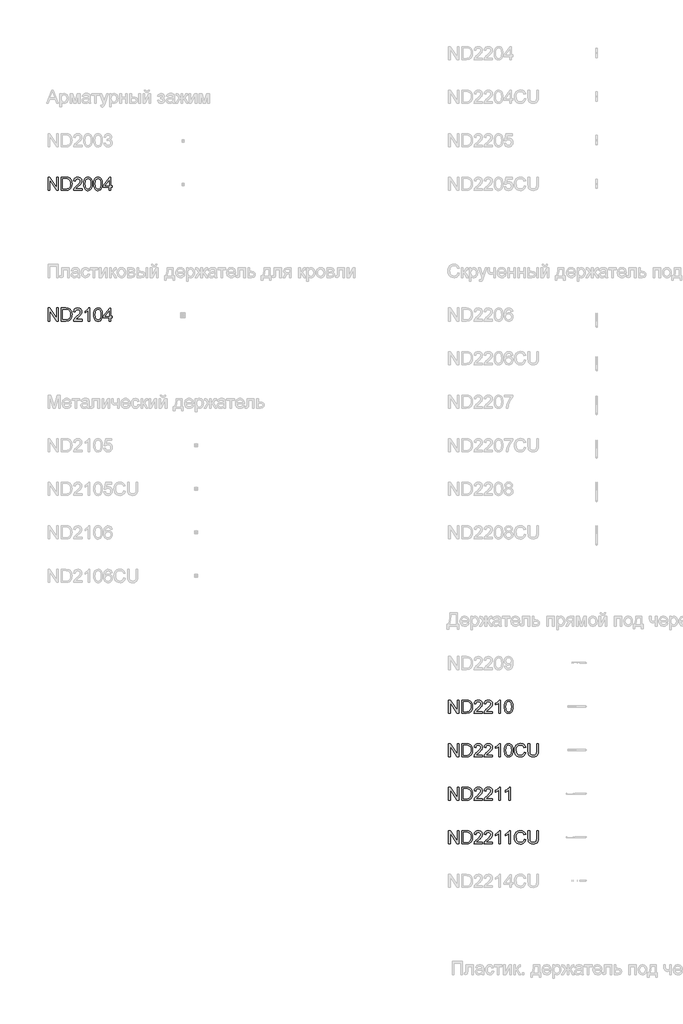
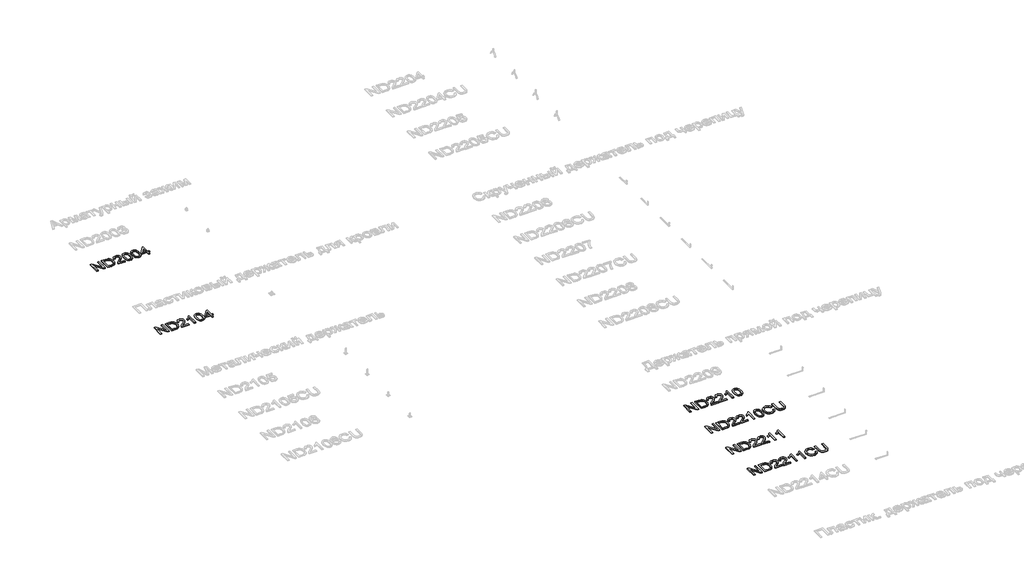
# One storey, part 88 of 124: 6 proxies.
"""IFC4 building model written with IfcOpenShell, lengths in millimetres."""

from ifc_helpers import new_model, si_unit, origin, origin_with_axes, place, context, project, spatial, polyline, outline, extrude, element, save

model = new_model("IFC4")

# Units and contexts
model_context = context("Model", 3, world=origin())
ifc_project = project(units=[si_unit("LENGTHUNIT", "METRE", prefix="MILLI")], contexts=[model_context])

# Site, building, storey
site = spatial("IfcSite", under=ifc_project)
building = spatial("IfcBuilding", under=site)
storey = spatial("IfcBuildingStorey", under=building, Name="Этаж 01", Elevation=0.0)

# Proxies
placement = place(None, origin())
element("IfcBuildingElementProxy", 1, Name="300", ObjectType="300", at=placement, inside=storey, context=model_context, shape_type="SweptSolid", body=[
    extrude(outline(polyline([(23340.1671275, -28519.5141033), (23340.1671275, -28218.1451728), (23380.4869942, -28218.1451728), (23537.9404881, -28456.9005877), (23537.9404881, -28218.1451728), (23575.6116044, -28218.1451728), (23575.6116044, -28519.5141033), (23535.2917378, -28519.5141033), (23377.8382438, -28280.685112), (23377.8382438, -28519.5141033), (23340.1671275, -28519.5141033)])), origin_with_axes(), (0.0, 0.0, 1.0), 20.0),
    extrude(outline(polyline([(23641.536058, -28519.5141033), (23641.536058, -28218.1451728), (23745.4995098, -28218.1451728), (23799.2838575, -28222.4861804), (23823.3065518, -28230.8554957), (23843.5768497, -28244.0440653), (23864.4173648, -28266.9999018), (23879.2614033, -28295.5475446), (23888.1457534, -28329.1351708), (23891.1072035, -28367.2109573), (23889.1022466, -28399.5569817), (23883.087376, -28428.0218511), (23873.9271143, -28452.2560775), (23862.4859843, -28471.9101731), (23849.3158089, -28487.4255962), (23834.968411, -28499.2438053), (23818.4964947, -28508.0085939), (23798.9527637, -28514.3637553), (23750.5027049, -28519.5141033), (23641.536058, -28519.5141033)]), holes=[polyline([(23679.2071743, -28481.842987), (23745.8673918, -28481.842987), (23773.4401473, -28480.4818236), (23794.3542388, -28476.3983334), (23810.1363764, -28469.8316398), (23822.3132704, -28461.020866), (23835.4006724, -28444.7144966), (23845.2323187, -28423.6072671), (23851.3851451, -28397.6072071), (23853.4360872, -28366.6223461), (23849.4169764, -28325.5667154), (23837.359644, -28295.253239), (23819.5449584, -28274.4311181), (23798.2537879, -28261.8495538), (23776.5855384, -28257.3246053), (23744.8373222, -28255.8162891), (23679.2071743, -28255.8162891), (23679.2071743, -28481.842987)])]), origin_with_axes(), (0.0, 0.0, 1.0), 20.0),
    extrude(outline(polyline([(24121.8427909, -28481.842987), (24121.8427909, -28519.5141033), (23924.0694303, -28519.5141033), (23928.1161322, -28493.5416344), (23937.4051526, -28473.2437453), (23950.9983923, -28453.5528615), (23970.661685, -28432.9422727), (23998.1608641, -28409.8852687), (24038.8118246, -28373.7776509), (24063.2024008, -28347.1246003), (24075.397689, -28325.493139), (24079.462785, -28304.4502889), (24075.6276152, -28285.5871396), (24064.1221058, -28269.9061695), (24046.4361789, -28259.3387592), (24024.0597566, -28255.8162891), (24000.5612941, -28259.2559858), (23982.3051501, -28269.5750757), (23970.5237292, -28285.9642186), (23966.4494361, -28307.614074), (23928.7783198, -28302.9051845), (23937.9109903, -28266.4664729), (23946.4573489, -28251.9305355), (23957.6570564, -28239.8502105), (23971.2525954, -28230.3542565), (23986.9864485, -28223.5714322), (24024.869097, -28218.1451728), (24045.0589207, -28219.653489), (24063.0276569, -28224.1784375), (24078.7753056, -28231.7200184), (24092.3018667, -28242.2782317), (24103.1658818, -28255.0713281), (24110.9258927, -28269.3175583), (24115.5818992, -28285.0169225), (24117.1339013, -28302.1694205), (24115.4600383, -28320.1864412), (24110.438449, -28337.8907622), (24101.5265077, -28355.8985859), (24088.1815883, -28374.8261146), (24066.9088119, -28397.4232661), (24034.2132996, -28426.4399585), (23990.8768006, -28462.676335), (23973.8806524, -28481.842987), (24121.8427909, -28481.842987)])), origin_with_axes(), (0.0, 0.0, 1.0), 20.0),
    extrude(outline(polyline([(24352.5783783, -28481.842987), (24352.5783783, -28519.5141033), (24154.8050176, -28519.5141033), (24158.8517196, -28493.5416344), (24168.14074, -28473.2437453), (24181.7339797, -28453.5528615), (24201.3972723, -28432.9422727), (24228.8964515, -28409.8852687), (24269.5474119, -28373.7776509), (24293.9379882, -28347.1246003), (24306.1332764, -28325.493139), (24310.1983724, -28304.4502889), (24306.3632026, -28285.5871396), (24294.8576932, -28269.9061695), (24277.1717663, -28259.3387592), (24254.7953439, -28255.8162891), (24231.2968815, -28259.2559858), (24213.0407375, -28269.5750757), (24201.2593166, -28285.9642186), (24197.1850235, -28307.614074), (24159.5139072, -28302.9051845), (24168.6465777, -28266.4664729), (24177.1929363, -28251.9305355), (24188.3926438, -28239.8502105), (24201.9881828, -28230.3542565), (24217.7220359, -28223.5714322), (24255.6046843, -28218.1451728), (24275.7945081, -28219.653489), (24293.7632443, -28224.1784375), (24309.5108929, -28231.7200184), (24323.037454, -28242.2782317), (24333.9014692, -28255.0713281), (24341.66148, -28269.3175583), (24346.3174865, -28285.0169225), (24347.8694887, -28302.1694205), (24346.1956256, -28320.1864412), (24341.1740364, -28337.8907622), (24332.2620951, -28355.8985859), (24318.9171757, -28374.8261146), (24297.6443993, -28397.4232661), (24264.948887, -28426.4399585), (24221.612388, -28462.676335), (24204.6162398, -28481.842987), (24352.5783783, -28481.842987)])), origin_with_axes(), (0.0, 0.0, 1.0), 20.0),
    extrude(outline(polyline([(24531.5161807, -28519.5141033), (24493.8450644, -28519.5141033), (24493.8450644, -28284.6582375), (24458.1605109, -28310.0788834), (24418.5028318, -28329.0983826), (24418.5028318, -28293.4874054), (24448.0897413, -28277.3925681), (24473.7219193, -28258.2443103), (24493.9278379, -28237.8820419), (24507.235969, -28218.1451728), (24531.5161807, -28218.1451728), (24531.5161807, -28519.5141033)])), origin_with_axes(), (0.0, 0.0, 1.0), 20.0),
    extrude(outline(polyline([(24620.9850819, -28371.2576592), (24623.7533939, -28323.0191326), (24632.05833, -28284.5478729), (24645.8171166, -28255.2552691), (24664.9469804, -28234.5527098), (24689.585877, -28222.2470571), (24719.8717622, -28218.1451728), (24743.0851161, -28220.573194), (24763.8704489, -28227.8572575), (24781.2528731, -28239.7122548), (24794.2575017, -28255.8530773), (24804.0799509, -28276.1417694), (24811.9158374, -28300.4403751), (24817.0477913, -28331.2964775), (24818.7584425, -28371.2576592), (24816.0177217, -28419.2202743), (24807.7955591, -28457.5995635), (24794.1195459, -28486.9197585), (24775.0172733, -28507.7050912), (24750.3231944, -28520.0935174), (24719.8717622, -28524.2229928), (24699.1232177, -28522.4295681), (24680.729118, -28517.0492939), (24664.689463, -28508.0821703), (24651.0042527, -28495.5281972), (24637.8708655, -28472.8344766), (24628.4898746, -28444.5581467), (24622.8612801, -28410.6992076), (24620.9850819, -28371.2576592)]), holes=[polyline([(24658.6561982, -28371.1840828), (24663.0707822, -28430.4406752), (24668.5890121, -28450.7086739), (24676.314534, -28464.7364742), (24696.033009, -28481.0980259), (24719.8717622, -28486.5518765), (24743.7105155, -28481.0796318), (24763.4289905, -28464.6628978), (24771.1545124, -28450.6121048), (24776.6727423, -28430.3487047), (24781.0873262, -28371.1840828), (24776.8198951, -28313.2610627), (24771.4856062, -28293.0597426), (24764.0176017, -28278.6985492), (24744.3359149, -28261.5368541), (24719.4303038, -28255.8162891), (24695.849068, -28260.8562725), (24676.9031452, -28275.9762225), (24668.9201059, -28291.6112072), (24663.217935, -28312.6908456), (24658.6561982, -28371.1840828)])]), origin_with_axes(), (0.0, 0.0, 1.0), 20.0),
])
element("IfcBuildingElementProxy", 2, Name="300", ObjectType="300", at=placement, inside=storey, context=model_context, shape_type="SweptSolid", body=[
    extrude(outline(polyline([(23340.1671275, -29519.5141033), (23340.1671275, -29218.1451728), (23380.4869942, -29218.1451728), (23537.9404881, -29456.9005877), (23537.9404881, -29218.1451728), (23575.6116044, -29218.1451728), (23575.6116044, -29519.5141033), (23535.2917378, -29519.5141033), (23377.8382438, -29280.685112), (23377.8382438, -29519.5141033), (23340.1671275, -29519.5141033)])), origin_with_axes(), (0.0, 0.0, 1.0), 20.0),
    extrude(outline(polyline([(23641.536058, -29519.5141033), (23641.536058, -29218.1451728), (23745.4995098, -29218.1451728), (23799.2838575, -29222.4861804), (23823.3065518, -29230.8554957), (23843.5768497, -29244.0440653), (23864.4173648, -29266.9999018), (23879.2614033, -29295.5475446), (23888.1457534, -29329.1351708), (23891.1072035, -29367.2109573), (23889.1022466, -29399.5569817), (23883.087376, -29428.0218511), (23873.9271143, -29452.2560775), (23862.4859843, -29471.9101731), (23849.3158089, -29487.4255962), (23834.968411, -29499.2438053), (23818.4964947, -29508.0085939), (23798.9527637, -29514.3637553), (23750.5027049, -29519.5141033), (23641.536058, -29519.5141033)]), holes=[polyline([(23679.2071743, -29481.842987), (23745.8673918, -29481.842987), (23773.4401473, -29480.4818236), (23794.3542388, -29476.3983334), (23810.1363764, -29469.8316398), (23822.3132704, -29461.020866), (23835.4006724, -29444.7144966), (23845.2323187, -29423.6072671), (23851.3851451, -29397.6072071), (23853.4360872, -29366.6223461), (23849.4169764, -29325.5667154), (23837.359644, -29295.253239), (23819.5449584, -29274.4311181), (23798.2537879, -29261.8495538), (23776.5855384, -29257.3246053), (23744.8373222, -29255.8162891), (23679.2071743, -29255.8162891), (23679.2071743, -29481.842987)])]), origin_with_axes(), (0.0, 0.0, 1.0), 20.0),
    extrude(outline(polyline([(24121.8427909, -29481.842987), (24121.8427909, -29519.5141033), (23924.0694303, -29519.5141033), (23928.1161322, -29493.5416344), (23937.4051526, -29473.2437453), (23950.9983923, -29453.5528615), (23970.661685, -29432.9422727), (23998.1608641, -29409.8852687), (24038.8118246, -29373.7776509), (24063.2024008, -29347.1246003), (24075.397689, -29325.493139), (24079.462785, -29304.4502889), (24075.6276152, -29285.5871396), (24064.1221058, -29269.9061695), (24046.4361789, -29259.3387592), (24024.0597566, -29255.8162891), (24000.5612941, -29259.2559858), (23982.3051501, -29269.5750757), (23970.5237292, -29285.9642186), (23966.4494361, -29307.614074), (23928.7783198, -29302.9051845), (23937.9109903, -29266.4664729), (23946.4573489, -29251.9305355), (23957.6570564, -29239.8502105), (23971.2525954, -29230.3542565), (23986.9864485, -29223.5714322), (24024.869097, -29218.1451728), (24045.0589207, -29219.653489), (24063.0276569, -29224.1784375), (24078.7753056, -29231.7200184), (24092.3018667, -29242.2782317), (24103.1658818, -29255.0713281), (24110.9258927, -29269.3175583), (24115.5818992, -29285.0169225), (24117.1339013, -29302.1694205), (24115.4600383, -29320.1864412), (24110.438449, -29337.8907622), (24101.5265077, -29355.8985859), (24088.1815883, -29374.8261146), (24066.9088119, -29397.4232661), (24034.2132996, -29426.4399585), (23990.8768006, -29462.676335), (23973.8806524, -29481.842987), (24121.8427909, -29481.842987)])), origin_with_axes(), (0.0, 0.0, 1.0), 20.0),
    extrude(outline(polyline([(24352.5783783, -29481.842987), (24352.5783783, -29519.5141033), (24154.8050176, -29519.5141033), (24158.8517196, -29493.5416344), (24168.14074, -29473.2437453), (24181.7339797, -29453.5528615), (24201.3972723, -29432.9422727), (24228.8964515, -29409.8852687), (24269.5474119, -29373.7776509), (24293.9379882, -29347.1246003), (24306.1332764, -29325.493139), (24310.1983724, -29304.4502889), (24306.3632026, -29285.5871396), (24294.8576932, -29269.9061695), (24277.1717663, -29259.3387592), (24254.7953439, -29255.8162891), (24231.2968815, -29259.2559858), (24213.0407375, -29269.5750757), (24201.2593166, -29285.9642186), (24197.1850235, -29307.614074), (24159.5139072, -29302.9051845), (24168.6465777, -29266.4664729), (24177.1929363, -29251.9305355), (24188.3926438, -29239.8502105), (24201.9881828, -29230.3542565), (24217.7220359, -29223.5714322), (24255.6046843, -29218.1451728), (24275.7945081, -29219.653489), (24293.7632443, -29224.1784375), (24309.5108929, -29231.7200184), (24323.037454, -29242.2782317), (24333.9014692, -29255.0713281), (24341.66148, -29269.3175583), (24346.3174865, -29285.0169225), (24347.8694887, -29302.1694205), (24346.1956256, -29320.1864412), (24341.1740364, -29337.8907622), (24332.2620951, -29355.8985859), (24318.9171757, -29374.8261146), (24297.6443993, -29397.4232661), (24264.948887, -29426.4399585), (24221.612388, -29462.676335), (24204.6162398, -29481.842987), (24352.5783783, -29481.842987)])), origin_with_axes(), (0.0, 0.0, 1.0), 20.0),
    extrude(outline(polyline([(24531.5161807, -29519.5141033), (24493.8450644, -29519.5141033), (24493.8450644, -29284.6582375), (24458.1605109, -29310.0788834), (24418.5028318, -29329.0983826), (24418.5028318, -29293.4874054), (24448.0897413, -29277.3925681), (24473.7219193, -29258.2443103), (24493.9278379, -29237.8820419), (24507.235969, -29218.1451728), (24531.5161807, -29218.1451728), (24531.5161807, -29519.5141033)])), origin_with_axes(), (0.0, 0.0, 1.0), 20.0),
    extrude(outline(polyline([(24620.9850819, -29371.2576592), (24623.7533939, -29323.0191326), (24632.05833, -29284.5478729), (24645.8171166, -29255.2552691), (24664.9469804, -29234.5527098), (24689.585877, -29222.2470571), (24719.8717622, -29218.1451728), (24743.0851161, -29220.573194), (24763.8704489, -29227.8572575), (24781.2528731, -29239.7122548), (24794.2575017, -29255.8530773), (24804.0799509, -29276.1417694), (24811.9158374, -29300.4403751), (24817.0477913, -29331.2964775), (24818.7584425, -29371.2576592), (24816.0177217, -29419.2202743), (24807.7955591, -29457.5995635), (24794.1195459, -29486.9197585), (24775.0172733, -29507.7050912), (24750.3231944, -29520.0935174), (24719.8717622, -29524.2229928), (24699.1232177, -29522.4295681), (24680.729118, -29517.0492939), (24664.689463, -29508.0821703), (24651.0042527, -29495.5281972), (24637.8708655, -29472.8344766), (24628.4898746, -29444.5581467), (24622.8612801, -29410.6992076), (24620.9850819, -29371.2576592)]), holes=[polyline([(24658.6561982, -29371.1840828), (24663.0707822, -29430.4406752), (24668.5890121, -29450.7086739), (24676.314534, -29464.7364742), (24696.033009, -29481.0980259), (24719.8717622, -29486.5518765), (24743.7105155, -29481.0796318), (24763.4289905, -29464.6628978), (24771.1545124, -29450.6121048), (24776.6727423, -29430.3487047), (24781.0873262, -29371.1840828), (24776.8198951, -29313.2610627), (24771.4856062, -29293.0597426), (24764.0176017, -29278.6985492), (24744.3359149, -29261.5368541), (24719.4303038, -29255.8162891), (24695.849068, -29260.8562725), (24676.9031452, -29275.9762225), (24668.9201059, -29291.6112072), (24663.217935, -29312.6908456), (24658.6561982, -29371.1840828)])]), origin_with_axes(), (0.0, 0.0, 1.0), 20.0),
    extrude(outline(polyline([(25077.7473671, -29412.3868663), (25115.4184835, -29422.0989509), (25107.9642745, -29445.5261362), (25098.0360592, -29465.99647), (25085.6338374, -29483.5099522), (25070.7576092, -29498.0665829), (25053.743067, -29509.5100123), (25034.9259029, -29517.6838903), (25014.3061171, -29522.5882172), (24991.8837095, -29524.2229928), (24948.1885255, -29519.27498), (24913.4880563, -29504.4309415), (24886.890188, -29480.2059121), (24867.5028069, -29447.1149266), (24855.6662037, -29408.2114056), (24851.7206693, -29366.5487697), (24856.1812385, -29322.6052653), (24869.5629461, -29284.6582375), (24891.1668162, -29253.9124998), (24920.2938732, -29231.5728656), (24954.8379926, -29217.9704289), (24992.6930499, -29213.4362833), (25033.9970009, -29219.3040011), (25051.9657371, -29226.6386484), (25068.1456471, -29236.9071546), (25082.2700164, -29249.8382067), (25094.0721307, -29265.1604918), (25110.7095939, -29302.9787609), (25073.0384776, -29311.9550816), (25059.9786668, -29284.4834936), (25042.13639, -29265.6387384), (25019.2909181, -29254.7402343), (24991.2215219, -29251.1073996), (24958.8663004, -29255.1357074), (24932.2868263, -29267.220631), (24912.1176959, -29286.0929773), (24898.9935057, -29310.4835536), (24891.7922156, -29338.0563091), (24889.3917856, -29366.4751933), (24892.233674, -29401.27683), (24900.7593393, -29431.3695772), (24915.2906781, -29455.6038036), (24936.1495872, -29472.8298781), (24961.1563658, -29483.1213769), (24988.1313131, -29486.5518765), (25019.5760267, -29481.8797752), (25045.7784218, -29467.8634711), (25065.5612761, -29444.6501172), (25077.7473671, -29412.3868663)])), origin_with_axes(), (0.0, 0.0, 1.0), 20.0),
    extrude(outline(polyline([(25364.989629, -29218.1451728), (25402.6607453, -29218.1451728), (25402.6607453, -29392.0062037), (25400.1039654, -29432.7215435), (25392.4336258, -29464.0742866), (25378.1046221, -29488.2625278), (25355.5718499, -29507.484362), (25324.7801269, -29520.0383351), (25285.6742708, -29524.2229928), (25247.4237404, -29520.580961), (25216.8435495, -29509.6548658), (25193.9245012, -29491.8217861), (25178.6573984, -29467.4588009), (25170.0765509, -29434.7816827), (25167.2162684, -29392.0062037), (25167.2162684, -29218.1451728), (25204.8873847, -29218.1451728), (25204.8873847, -29390.6818285), (25206.7451888, -29424.5361692), (25212.318601, -29448.108208), (25222.4169618, -29464.4329715), (25237.8496114, -29476.5454862), (25257.9727566, -29484.0502789), (25282.1426037, -29486.5518765), (25320.4575135, -29481.6038637), (25334.8003128, -29475.4188476), (25345.9333416, -29466.7598252), (25354.2704673, -29454.5829311), (25360.2255571, -29437.8443003), (25364.989629, -29390.6818285), (25364.989629, -29218.1451728)])), origin_with_axes(), (0.0, 0.0, 1.0), 20.0),
])
element("IfcBuildingElementProxy", 3, Name="300", ObjectType="300", at=placement, inside=storey, context=model_context, shape_type="SweptSolid", body=[
    extrude(outline(polyline([(23340.1671275, -30519.5141033), (23340.1671275, -30218.1451728), (23380.4869942, -30218.1451728), (23537.9404881, -30456.9005877), (23537.9404881, -30218.1451728), (23575.6116044, -30218.1451728), (23575.6116044, -30519.5141033), (23535.2917378, -30519.5141033), (23377.8382438, -30280.685112), (23377.8382438, -30519.5141033), (23340.1671275, -30519.5141033)])), origin_with_axes(), (0.0, 0.0, 1.0), 20.0),
    extrude(outline(polyline([(23641.536058, -30519.5141033), (23641.536058, -30218.1451728), (23745.4995098, -30218.1451728), (23799.2838575, -30222.4861804), (23823.3065518, -30230.8554957), (23843.5768497, -30244.0440653), (23864.4173648, -30266.9999018), (23879.2614033, -30295.5475446), (23888.1457534, -30329.1351708), (23891.1072035, -30367.2109573), (23889.1022466, -30399.5569817), (23883.087376, -30428.0218511), (23873.9271143, -30452.2560775), (23862.4859843, -30471.9101731), (23849.3158089, -30487.4255962), (23834.968411, -30499.2438053), (23818.4964947, -30508.0085939), (23798.9527637, -30514.3637553), (23750.5027049, -30519.5141033), (23641.536058, -30519.5141033)]), holes=[polyline([(23679.2071743, -30481.842987), (23745.8673918, -30481.842987), (23773.4401473, -30480.4818236), (23794.3542388, -30476.3983334), (23810.1363764, -30469.8316398), (23822.3132704, -30461.020866), (23835.4006724, -30444.7144966), (23845.2323187, -30423.6072671), (23851.3851451, -30397.6072071), (23853.4360872, -30366.6223461), (23849.4169764, -30325.5667154), (23837.359644, -30295.253239), (23819.5449584, -30274.4311181), (23798.2537879, -30261.8495538), (23776.5855384, -30257.3246053), (23744.8373222, -30255.8162891), (23679.2071743, -30255.8162891), (23679.2071743, -30481.842987)])]), origin_with_axes(), (0.0, 0.0, 1.0), 20.0),
    extrude(outline(polyline([(24121.8427909, -30481.842987), (24121.8427909, -30519.5141033), (23924.0694303, -30519.5141033), (23928.1161322, -30493.5416344), (23937.4051526, -30473.2437453), (23950.9983923, -30453.5528615), (23970.661685, -30432.9422727), (23998.1608641, -30409.8852687), (24038.8118246, -30373.7776509), (24063.2024008, -30347.1246003), (24075.397689, -30325.493139), (24079.462785, -30304.4502889), (24075.6276152, -30285.5871396), (24064.1221058, -30269.9061695), (24046.4361789, -30259.3387592), (24024.0597566, -30255.8162891), (24000.5612941, -30259.2559858), (23982.3051501, -30269.5750757), (23970.5237292, -30285.9642186), (23966.4494361, -30307.614074), (23928.7783198, -30302.9051845), (23937.9109903, -30266.4664729), (23946.4573489, -30251.9305355), (23957.6570564, -30239.8502105), (23971.2525954, -30230.3542565), (23986.9864485, -30223.5714322), (24024.869097, -30218.1451728), (24045.0589207, -30219.653489), (24063.0276569, -30224.1784375), (24078.7753056, -30231.7200184), (24092.3018667, -30242.2782317), (24103.1658818, -30255.0713281), (24110.9258927, -30269.3175583), (24115.5818992, -30285.0169225), (24117.1339013, -30302.1694205), (24115.4600383, -30320.1864412), (24110.438449, -30337.8907622), (24101.5265077, -30355.8985859), (24088.1815883, -30374.8261146), (24066.9088119, -30397.4232661), (24034.2132996, -30426.4399585), (23990.8768006, -30462.676335), (23973.8806524, -30481.842987), (24121.8427909, -30481.842987)])), origin_with_axes(), (0.0, 0.0, 1.0), 20.0),
    extrude(outline(polyline([(24352.5783783, -30481.842987), (24352.5783783, -30519.5141033), (24154.8050176, -30519.5141033), (24158.8517196, -30493.5416344), (24168.14074, -30473.2437453), (24181.7339797, -30453.5528615), (24201.3972723, -30432.9422727), (24228.8964515, -30409.8852687), (24269.5474119, -30373.7776509), (24293.9379882, -30347.1246003), (24306.1332764, -30325.493139), (24310.1983724, -30304.4502889), (24306.3632026, -30285.5871396), (24294.8576932, -30269.9061695), (24277.1717663, -30259.3387592), (24254.7953439, -30255.8162891), (24231.2968815, -30259.2559858), (24213.0407375, -30269.5750757), (24201.2593166, -30285.9642186), (24197.1850235, -30307.614074), (24159.5139072, -30302.9051845), (24168.6465777, -30266.4664729), (24177.1929363, -30251.9305355), (24188.3926438, -30239.8502105), (24201.9881828, -30230.3542565), (24217.7220359, -30223.5714322), (24255.6046843, -30218.1451728), (24275.7945081, -30219.653489), (24293.7632443, -30224.1784375), (24309.5108929, -30231.7200184), (24323.037454, -30242.2782317), (24333.9014692, -30255.0713281), (24341.66148, -30269.3175583), (24346.3174865, -30285.0169225), (24347.8694887, -30302.1694205), (24346.1956256, -30320.1864412), (24341.1740364, -30337.8907622), (24332.2620951, -30355.8985859), (24318.9171757, -30374.8261146), (24297.6443993, -30397.4232661), (24264.948887, -30426.4399585), (24221.612388, -30462.676335), (24204.6162398, -30481.842987), (24352.5783783, -30481.842987)])), origin_with_axes(), (0.0, 0.0, 1.0), 20.0),
    extrude(outline(polyline([(24531.5161807, -30519.5141033), (24493.8450644, -30519.5141033), (24493.8450644, -30284.6582375), (24458.1605109, -30310.0788834), (24418.5028318, -30329.0983826), (24418.5028318, -30293.4874054), (24448.0897413, -30277.3925681), (24473.7219193, -30258.2443103), (24493.9278379, -30237.8820419), (24507.235969, -30218.1451728), (24531.5161807, -30218.1451728), (24531.5161807, -30519.5141033)])), origin_with_axes(), (0.0, 0.0, 1.0), 20.0),
    extrude(outline(polyline([(24762.2517681, -30519.5141033), (24724.5806518, -30519.5141033), (24724.5806518, -30284.6582375), (24688.8960982, -30310.0788834), (24649.2384192, -30329.0983826), (24649.2384192, -30293.4874054), (24678.8253286, -30277.3925681), (24704.4575066, -30258.2443103), (24724.6634252, -30237.8820419), (24737.9715564, -30218.1451728), (24762.2517681, -30218.1451728), (24762.2517681, -30519.5141033)])), origin_with_axes(), (0.0, 0.0, 1.0), 20.0),
])
element("IfcBuildingElementProxy", 4, Name="300", ObjectType="300", at=placement, inside=storey, context=model_context, shape_type="SweptSolid", body=[
    extrude(outline(polyline([(23340.1671275, -31519.5141033), (23340.1671275, -31218.1451728), (23380.4869942, -31218.1451728), (23537.9404881, -31456.9005877), (23537.9404881, -31218.1451728), (23575.6116044, -31218.1451728), (23575.6116044, -31519.5141033), (23535.2917378, -31519.5141033), (23377.8382438, -31280.685112), (23377.8382438, -31519.5141033), (23340.1671275, -31519.5141033)])), origin_with_axes(), (0.0, 0.0, 1.0), 20.0),
    extrude(outline(polyline([(23641.536058, -31519.5141033), (23641.536058, -31218.1451728), (23745.4995098, -31218.1451728), (23799.2838575, -31222.4861804), (23823.3065518, -31230.8554957), (23843.5768497, -31244.0440653), (23864.4173648, -31266.9999018), (23879.2614033, -31295.5475446), (23888.1457534, -31329.1351708), (23891.1072035, -31367.2109573), (23889.1022466, -31399.5569817), (23883.087376, -31428.0218511), (23873.9271143, -31452.2560775), (23862.4859843, -31471.9101731), (23849.3158089, -31487.4255962), (23834.968411, -31499.2438053), (23818.4964947, -31508.0085939), (23798.9527637, -31514.3637553), (23750.5027049, -31519.5141033), (23641.536058, -31519.5141033)]), holes=[polyline([(23679.2071743, -31481.842987), (23745.8673918, -31481.842987), (23773.4401473, -31480.4818236), (23794.3542388, -31476.3983334), (23810.1363764, -31469.8316398), (23822.3132704, -31461.020866), (23835.4006724, -31444.7144966), (23845.2323187, -31423.6072671), (23851.3851451, -31397.6072071), (23853.4360872, -31366.6223461), (23849.4169764, -31325.5667154), (23837.359644, -31295.253239), (23819.5449584, -31274.4311181), (23798.2537879, -31261.8495538), (23776.5855384, -31257.3246053), (23744.8373222, -31255.8162891), (23679.2071743, -31255.8162891), (23679.2071743, -31481.842987)])]), origin_with_axes(), (0.0, 0.0, 1.0), 20.0),
    extrude(outline(polyline([(24121.8427909, -31481.842987), (24121.8427909, -31519.5141033), (23924.0694303, -31519.5141033), (23928.1161322, -31493.5416344), (23937.4051526, -31473.2437453), (23950.9983923, -31453.5528615), (23970.661685, -31432.9422727), (23998.1608641, -31409.8852687), (24038.8118246, -31373.7776509), (24063.2024008, -31347.1246003), (24075.397689, -31325.493139), (24079.462785, -31304.4502889), (24075.6276152, -31285.5871396), (24064.1221058, -31269.9061695), (24046.4361789, -31259.3387592), (24024.0597566, -31255.8162891), (24000.5612941, -31259.2559858), (23982.3051501, -31269.5750757), (23970.5237292, -31285.9642186), (23966.4494361, -31307.614074), (23928.7783198, -31302.9051845), (23937.9109903, -31266.4664729), (23946.4573489, -31251.9305355), (23957.6570564, -31239.8502105), (23971.2525954, -31230.3542565), (23986.9864485, -31223.5714322), (24024.869097, -31218.1451728), (24045.0589207, -31219.653489), (24063.0276569, -31224.1784375), (24078.7753056, -31231.7200184), (24092.3018667, -31242.2782317), (24103.1658818, -31255.0713281), (24110.9258927, -31269.3175583), (24115.5818992, -31285.0169225), (24117.1339013, -31302.1694205), (24115.4600383, -31320.1864412), (24110.438449, -31337.8907622), (24101.5265077, -31355.8985859), (24088.1815883, -31374.8261146), (24066.9088119, -31397.4232661), (24034.2132996, -31426.4399585), (23990.8768006, -31462.676335), (23973.8806524, -31481.842987), (24121.8427909, -31481.842987)])), origin_with_axes(), (0.0, 0.0, 1.0), 20.0),
    extrude(outline(polyline([(24352.5783783, -31481.842987), (24352.5783783, -31519.5141033), (24154.8050176, -31519.5141033), (24158.8517196, -31493.5416344), (24168.14074, -31473.2437453), (24181.7339797, -31453.5528615), (24201.3972723, -31432.9422727), (24228.8964515, -31409.8852687), (24269.5474119, -31373.7776509), (24293.9379882, -31347.1246003), (24306.1332764, -31325.493139), (24310.1983724, -31304.4502889), (24306.3632026, -31285.5871396), (24294.8576932, -31269.9061695), (24277.1717663, -31259.3387592), (24254.7953439, -31255.8162891), (24231.2968815, -31259.2559858), (24213.0407375, -31269.5750757), (24201.2593166, -31285.9642186), (24197.1850235, -31307.614074), (24159.5139072, -31302.9051845), (24168.6465777, -31266.4664729), (24177.1929363, -31251.9305355), (24188.3926438, -31239.8502105), (24201.9881828, -31230.3542565), (24217.7220359, -31223.5714322), (24255.6046843, -31218.1451728), (24275.7945081, -31219.653489), (24293.7632443, -31224.1784375), (24309.5108929, -31231.7200184), (24323.037454, -31242.2782317), (24333.9014692, -31255.0713281), (24341.66148, -31269.3175583), (24346.3174865, -31285.0169225), (24347.8694887, -31302.1694205), (24346.1956256, -31320.1864412), (24341.1740364, -31337.8907622), (24332.2620951, -31355.8985859), (24318.9171757, -31374.8261146), (24297.6443993, -31397.4232661), (24264.948887, -31426.4399585), (24221.612388, -31462.676335), (24204.6162398, -31481.842987), (24352.5783783, -31481.842987)])), origin_with_axes(), (0.0, 0.0, 1.0), 20.0),
    extrude(outline(polyline([(24531.5161807, -31519.5141033), (24493.8450644, -31519.5141033), (24493.8450644, -31284.6582375), (24458.1605109, -31310.0788834), (24418.5028318, -31329.0983826), (24418.5028318, -31293.4874054), (24448.0897413, -31277.3925681), (24473.7219193, -31258.2443103), (24493.9278379, -31237.8820419), (24507.235969, -31218.1451728), (24531.5161807, -31218.1451728), (24531.5161807, -31519.5141033)])), origin_with_axes(), (0.0, 0.0, 1.0), 20.0),
    extrude(outline(polyline([(24762.2517681, -31519.5141033), (24724.5806518, -31519.5141033), (24724.5806518, -31284.6582375), (24688.8960982, -31310.0788834), (24649.2384192, -31329.0983826), (24649.2384192, -31293.4874054), (24678.8253286, -31277.3925681), (24704.4575066, -31258.2443103), (24724.6634252, -31237.8820419), (24737.9715564, -31218.1451728), (24762.2517681, -31218.1451728), (24762.2517681, -31519.5141033)])), origin_with_axes(), (0.0, 0.0, 1.0), 20.0),
    extrude(outline(polyline([(25077.7473671, -31412.3868663), (25115.4184835, -31422.0989509), (25107.9642745, -31445.5261362), (25098.0360592, -31465.99647), (25085.6338374, -31483.5099522), (25070.7576092, -31498.0665829), (25053.743067, -31509.5100123), (25034.9259029, -31517.6838903), (25014.3061171, -31522.5882172), (24991.8837095, -31524.2229928), (24948.1885255, -31519.27498), (24913.4880563, -31504.4309415), (24886.890188, -31480.2059121), (24867.5028069, -31447.1149266), (24855.6662037, -31408.2114056), (24851.7206693, -31366.5487697), (24856.1812385, -31322.6052653), (24869.5629461, -31284.6582375), (24891.1668162, -31253.9124998), (24920.2938732, -31231.5728656), (24954.8379926, -31217.9704289), (24992.6930499, -31213.4362833), (25033.9970009, -31219.3040011), (25051.9657371, -31226.6386484), (25068.1456471, -31236.9071546), (25082.2700164, -31249.8382067), (25094.0721307, -31265.1604918), (25110.7095939, -31302.9787609), (25073.0384776, -31311.9550816), (25059.9786668, -31284.4834936), (25042.13639, -31265.6387384), (25019.2909181, -31254.7402343), (24991.2215219, -31251.1073996), (24958.8663004, -31255.1357074), (24932.2868263, -31267.220631), (24912.1176959, -31286.0929773), (24898.9935057, -31310.4835536), (24891.7922156, -31338.0563091), (24889.3917856, -31366.4751933), (24892.233674, -31401.27683), (24900.7593393, -31431.3695772), (24915.2906781, -31455.6038036), (24936.1495872, -31472.8298781), (24961.1563658, -31483.1213769), (24988.1313131, -31486.5518765), (25019.5760267, -31481.8797752), (25045.7784218, -31467.8634711), (25065.5612761, -31444.6501172), (25077.7473671, -31412.3868663)])), origin_with_axes(), (0.0, 0.0, 1.0), 20.0),
    extrude(outline(polyline([(25364.989629, -31218.1451728), (25402.6607453, -31218.1451728), (25402.6607453, -31392.0062037), (25400.1039654, -31432.7215435), (25392.4336258, -31464.0742866), (25378.1046221, -31488.2625278), (25355.5718499, -31507.484362), (25324.7801269, -31520.0383351), (25285.6742708, -31524.2229928), (25247.4237404, -31520.580961), (25216.8435495, -31509.6548658), (25193.9245012, -31491.8217861), (25178.6573984, -31467.4588009), (25170.0765509, -31434.7816827), (25167.2162684, -31392.0062037), (25167.2162684, -31218.1451728), (25204.8873847, -31218.1451728), (25204.8873847, -31390.6818285), (25206.7451888, -31424.5361692), (25212.318601, -31448.108208), (25222.4169618, -31464.4329715), (25237.8496114, -31476.5454862), (25257.9727566, -31484.0502789), (25282.1426037, -31486.5518765), (25320.4575135, -31481.6038637), (25334.8003128, -31475.4188476), (25345.9333416, -31466.7598252), (25354.2704673, -31454.5829311), (25360.2255571, -31437.8443003), (25364.989629, -31390.6818285), (25364.989629, -31218.1451728)])), origin_with_axes(), (0.0, 0.0, 1.0), 20.0),
])
element("IfcBuildingElementProxy", 5, Name="300", ObjectType="300", at=placement, inside=storey, context=model_context, shape_type="SweptSolid", body=[
    extrude(outline(polyline([(14140.1671275, -16519.5141033), (14140.1671275, -16218.1451728), (14180.4869942, -16218.1451728), (14337.9404881, -16456.9005877), (14337.9404881, -16218.1451728), (14375.6116044, -16218.1451728), (14375.6116044, -16519.5141033), (14335.2917378, -16519.5141033), (14177.8382438, -16280.685112), (14177.8382438, -16519.5141033), (14140.1671275, -16519.5141033)])), origin_with_axes(), (0.0, 0.0, 1.0), 20.0),
    extrude(outline(polyline([(14441.536058, -16519.5141033), (14441.536058, -16218.1451728), (14545.4995098, -16218.1451728), (14599.2838575, -16222.4861804), (14623.3065518, -16230.8554957), (14643.5768497, -16244.0440653), (14664.4173648, -16266.9999018), (14679.2614033, -16295.5475446), (14688.1457534, -16329.1351708), (14691.1072035, -16367.2109573), (14689.1022466, -16399.5569817), (14683.087376, -16428.0218511), (14673.9271143, -16452.2560775), (14662.4859843, -16471.9101731), (14649.3158089, -16487.4255962), (14634.968411, -16499.2438053), (14618.4964947, -16508.0085939), (14598.9527637, -16514.3637553), (14550.5027049, -16519.5141033), (14441.536058, -16519.5141033)]), holes=[polyline([(14479.2071743, -16481.842987), (14545.8673918, -16481.842987), (14573.4401473, -16480.4818236), (14594.3542388, -16476.3983334), (14610.1363764, -16469.8316398), (14622.3132704, -16461.020866), (14635.4006724, -16444.7144966), (14645.2323187, -16423.6072671), (14651.3851451, -16397.6072071), (14653.4360872, -16366.6223461), (14649.4169764, -16325.5667154), (14637.359644, -16295.253239), (14619.5449584, -16274.4311181), (14598.2537879, -16261.8495538), (14576.5855384, -16257.3246053), (14544.8373222, -16255.8162891), (14479.2071743, -16255.8162891), (14479.2071743, -16481.842987)])]), origin_with_axes(), (0.0, 0.0, 1.0), 20.0),
    extrude(outline(polyline([(14921.8427909, -16481.842987), (14921.8427909, -16519.5141033), (14724.0694303, -16519.5141033), (14728.1161322, -16493.5416344), (14737.4051526, -16473.2437453), (14750.9983923, -16453.5528615), (14770.661685, -16432.9422727), (14798.1608641, -16409.8852687), (14838.8118246, -16373.7776509), (14863.2024008, -16347.1246003), (14875.397689, -16325.493139), (14879.462785, -16304.4502889), (14875.6276152, -16285.5871396), (14864.1221058, -16269.9061695), (14846.4361789, -16259.3387592), (14824.0597566, -16255.8162891), (14800.5612941, -16259.2559858), (14782.3051501, -16269.5750757), (14770.5237292, -16285.9642186), (14766.4494361, -16307.614074), (14728.7783198, -16302.9051845), (14737.9109903, -16266.4664729), (14746.4573489, -16251.9305355), (14757.6570564, -16239.8502105), (14771.2525954, -16230.3542565), (14786.9864485, -16223.5714322), (14824.869097, -16218.1451728), (14845.0589207, -16219.653489), (14863.0276569, -16224.1784375), (14878.7753056, -16231.7200184), (14892.3018667, -16242.2782317), (14903.1658818, -16255.0713281), (14910.9258927, -16269.3175583), (14915.5818992, -16285.0169225), (14917.1339013, -16302.1694205), (14915.4600383, -16320.1864412), (14910.438449, -16337.8907622), (14901.5265077, -16355.8985859), (14888.1815883, -16374.8261146), (14866.9088119, -16397.4232661), (14834.2132996, -16426.4399585), (14790.8768006, -16462.676335), (14773.8806524, -16481.842987), (14921.8427909, -16481.842987)])), origin_with_axes(), (0.0, 0.0, 1.0), 20.0),
    extrude(outline(polyline([(14959.5139072, -16371.2576592), (14962.2822192, -16323.0191326), (14970.5871552, -16284.5478729), (14984.3459419, -16255.2552691), (15003.4758056, -16234.5527098), (15028.1147022, -16222.2470571), (15058.4005875, -16218.1451728), (15081.6139414, -16220.573194), (15102.3992741, -16227.8572575), (15119.7816984, -16239.7122548), (15132.7863269, -16255.8530773), (15142.6087762, -16276.1417694), (15150.4446627, -16300.4403751), (15155.5766165, -16331.2964775), (15157.2872678, -16371.2576592), (15154.5465469, -16419.2202743), (15146.3243843, -16457.5995635), (15132.6483712, -16486.9197585), (15113.5460986, -16507.7050912), (15088.8520196, -16520.0935174), (15058.4005875, -16524.2229928), (15037.652043, -16522.4295681), (15019.2579432, -16517.0492939), (15003.2182882, -16508.0821703), (14989.533078, -16495.5281972), (14976.3996908, -16472.8344766), (14967.0186999, -16444.5581467), (14961.3901054, -16410.6992076), (14959.5139072, -16371.2576592)]), holes=[polyline([(14997.1850235, -16371.1840828), (15001.5996074, -16430.4406752), (15007.1178374, -16450.7086739), (15014.8433593, -16464.7364742), (15034.5618342, -16481.0980259), (15058.4005875, -16486.5518765), (15082.2393408, -16481.0796318), (15101.9578157, -16464.6628978), (15109.6833376, -16450.6121048), (15115.2015675, -16430.3487047), (15119.6161515, -16371.1840828), (15115.3487203, -16313.2610627), (15110.0144314, -16293.0597426), (15102.5464269, -16278.6985492), (15082.8647402, -16261.5368541), (15057.9591291, -16255.8162891), (15034.3778932, -16260.8562725), (15015.4319705, -16275.9762225), (15007.4489312, -16291.6112072), (15001.7467602, -16312.6908456), (14997.1850235, -16371.1840828)])]), origin_with_axes(), (0.0, 0.0, 1.0), 20.0),
    extrude(outline(polyline([(15190.2494946, -16371.2576592), (15193.0178066, -16323.0191326), (15201.3227426, -16284.5478729), (15215.0815292, -16255.2552691), (15234.211393, -16234.5527098), (15258.8502896, -16222.2470571), (15289.1361749, -16218.1451728), (15312.3495288, -16220.573194), (15333.1348615, -16227.8572575), (15350.5172858, -16239.7122548), (15363.5219143, -16255.8530773), (15373.3443636, -16276.1417694), (15381.1802501, -16300.4403751), (15386.3122039, -16331.2964775), (15388.0228552, -16371.2576592), (15385.2821343, -16419.2202743), (15377.0599717, -16457.5995635), (15363.3839585, -16486.9197585), (15344.2816859, -16507.7050912), (15319.587607, -16520.0935174), (15289.1361749, -16524.2229928), (15268.3876303, -16522.4295681), (15249.9935306, -16517.0492939), (15233.9538756, -16508.0821703), (15220.2686654, -16495.5281972), (15207.1352781, -16472.8344766), (15197.7542873, -16444.5581467), (15192.1256927, -16410.6992076), (15190.2494946, -16371.2576592)]), holes=[polyline([(15227.9206109, -16371.1840828), (15232.3351948, -16430.4406752), (15237.8534247, -16450.7086739), (15245.5789466, -16464.7364742), (15265.2974216, -16481.0980259), (15289.1361749, -16486.5518765), (15312.9749282, -16481.0796318), (15332.6934031, -16464.6628978), (15340.418925, -16450.6121048), (15345.9371549, -16430.3487047), (15350.3517389, -16371.1840828), (15346.0843077, -16313.2610627), (15340.7500188, -16293.0597426), (15333.2820143, -16278.6985492), (15313.6003275, -16261.5368541), (15288.6947165, -16255.8162891), (15265.1134806, -16260.8562725), (15246.1675578, -16275.9762225), (15238.1845185, -16291.6112072), (15232.4823476, -16312.6908456), (15227.9206109, -16371.1840828)])]), origin_with_axes(), (0.0, 0.0, 1.0), 20.0),
    extrude(outline(polyline([(15543.4162099, -16519.5141033), (15543.4162099, -16448.8807602), (15406.8584133, -16448.8807602), (15406.8584133, -16411.2096439), (15552.833989, -16222.8540624), (15581.0873262, -16222.8540624), (15581.0873262, -16411.2096439), (15618.7584425, -16411.2096439), (15618.7584425, -16448.8807602), (15581.0873262, -16448.8807602), (15581.0873262, -16519.5141033), (15543.4162099, -16519.5141033)]), holes=[polyline([(15543.4162099, -16411.2096439), (15543.4162099, -16294.8117806), (15453.2115447, -16411.2096439), (15543.4162099, -16411.2096439)])]), origin_with_axes(), (0.0, 0.0, 1.0), 20.0),
])
element("IfcBuildingElementProxy", 6, Name="300", ObjectType="300", at=placement, inside=storey, context=model_context, shape_type="SweptSolid", body=[
    extrude(outline(polyline([(14140.1671275, -19519.5141033), (14140.1671275, -19218.1451728), (14180.4869942, -19218.1451728), (14337.9404881, -19456.9005877), (14337.9404881, -19218.1451728), (14375.6116044, -19218.1451728), (14375.6116044, -19519.5141033), (14335.2917378, -19519.5141033), (14177.8382438, -19280.685112), (14177.8382438, -19519.5141033), (14140.1671275, -19519.5141033)])), origin_with_axes(), (0.0, 0.0, 1.0), 20.0),
    extrude(outline(polyline([(14441.536058, -19519.5141033), (14441.536058, -19218.1451728), (14545.4995098, -19218.1451728), (14599.2838575, -19222.4861804), (14623.3065518, -19230.8554957), (14643.5768497, -19244.0440653), (14664.4173648, -19266.9999018), (14679.2614033, -19295.5475446), (14688.1457534, -19329.1351708), (14691.1072035, -19367.2109573), (14689.1022466, -19399.5569817), (14683.087376, -19428.0218511), (14673.9271143, -19452.2560775), (14662.4859843, -19471.9101731), (14649.3158089, -19487.4255962), (14634.968411, -19499.2438053), (14618.4964947, -19508.0085939), (14598.9527637, -19514.3637553), (14550.5027049, -19519.5141033), (14441.536058, -19519.5141033)]), holes=[polyline([(14479.2071743, -19481.842987), (14545.8673918, -19481.842987), (14573.4401473, -19480.4818236), (14594.3542388, -19476.3983334), (14610.1363764, -19469.8316398), (14622.3132704, -19461.020866), (14635.4006724, -19444.7144966), (14645.2323187, -19423.6072671), (14651.3851451, -19397.6072071), (14653.4360872, -19366.6223461), (14649.4169764, -19325.5667154), (14637.359644, -19295.253239), (14619.5449584, -19274.4311181), (14598.2537879, -19261.8495538), (14576.5855384, -19257.3246053), (14544.8373222, -19255.8162891), (14479.2071743, -19255.8162891), (14479.2071743, -19481.842987)])]), origin_with_axes(), (0.0, 0.0, 1.0), 20.0),
    extrude(outline(polyline([(14921.8427909, -19481.842987), (14921.8427909, -19519.5141033), (14724.0694303, -19519.5141033), (14728.1161322, -19493.5416344), (14737.4051526, -19473.2437453), (14750.9983923, -19453.5528615), (14770.661685, -19432.9422727), (14798.1608641, -19409.8852687), (14838.8118246, -19373.7776509), (14863.2024008, -19347.1246003), (14875.397689, -19325.493139), (14879.462785, -19304.4502889), (14875.6276152, -19285.5871396), (14864.1221058, -19269.9061695), (14846.4361789, -19259.3387592), (14824.0597566, -19255.8162891), (14800.5612941, -19259.2559858), (14782.3051501, -19269.5750757), (14770.5237292, -19285.9642186), (14766.4494361, -19307.614074), (14728.7783198, -19302.9051845), (14737.9109903, -19266.4664729), (14746.4573489, -19251.9305355), (14757.6570564, -19239.8502105), (14771.2525954, -19230.3542565), (14786.9864485, -19223.5714322), (14824.869097, -19218.1451728), (14845.0589207, -19219.653489), (14863.0276569, -19224.1784375), (14878.7753056, -19231.7200184), (14892.3018667, -19242.2782317), (14903.1658818, -19255.0713281), (14910.9258927, -19269.3175583), (14915.5818992, -19285.0169225), (14917.1339013, -19302.1694205), (14915.4600383, -19320.1864412), (14910.438449, -19337.8907622), (14901.5265077, -19355.8985859), (14888.1815883, -19374.8261146), (14866.9088119, -19397.4232661), (14834.2132996, -19426.4399585), (14790.8768006, -19462.676335), (14773.8806524, -19481.842987), (14921.8427909, -19481.842987)])), origin_with_axes(), (0.0, 0.0, 1.0), 20.0),
    extrude(outline(polyline([(15100.7805933, -19519.5141033), (15063.109477, -19519.5141033), (15063.109477, -19284.6582375), (15027.4249235, -19310.0788834), (14987.7672444, -19329.0983826), (14987.7672444, -19293.4874054), (15017.3541539, -19277.3925681), (15042.9863319, -19258.2443103), (15063.1922505, -19237.8820419), (15076.5003817, -19218.1451728), (15100.7805933, -19218.1451728), (15100.7805933, -19519.5141033)])), origin_with_axes(), (0.0, 0.0, 1.0), 20.0),
    extrude(outline(polyline([(15190.2494946, -19371.2576592), (15193.0178066, -19323.0191326), (15201.3227426, -19284.5478729), (15215.0815292, -19255.2552691), (15234.211393, -19234.5527098), (15258.8502896, -19222.2470571), (15289.1361749, -19218.1451728), (15312.3495288, -19220.573194), (15333.1348615, -19227.8572575), (15350.5172858, -19239.7122548), (15363.5219143, -19255.8530773), (15373.3443636, -19276.1417694), (15381.1802501, -19300.4403751), (15386.3122039, -19331.2964775), (15388.0228552, -19371.2576592), (15385.2821343, -19419.2202743), (15377.0599717, -19457.5995635), (15363.3839585, -19486.9197585), (15344.2816859, -19507.7050912), (15319.587607, -19520.0935174), (15289.1361749, -19524.2229928), (15268.3876303, -19522.4295681), (15249.9935306, -19517.0492939), (15233.9538756, -19508.0821703), (15220.2686654, -19495.5281972), (15207.1352781, -19472.8344766), (15197.7542873, -19444.5581467), (15192.1256927, -19410.6992076), (15190.2494946, -19371.2576592)]), holes=[polyline([(15227.9206109, -19371.1840828), (15232.3351948, -19430.4406752), (15237.8534247, -19450.7086739), (15245.5789466, -19464.7364742), (15265.2974216, -19481.0980259), (15289.1361749, -19486.5518765), (15312.9749282, -19481.0796318), (15332.6934031, -19464.6628978), (15340.418925, -19450.6121048), (15345.9371549, -19430.3487047), (15350.3517389, -19371.1840828), (15346.0843077, -19313.2610627), (15340.7500188, -19293.0597426), (15333.2820143, -19278.6985492), (15313.6003275, -19261.5368541), (15288.6947165, -19255.8162891), (15265.1134806, -19260.8562725), (15246.1675578, -19275.9762225), (15238.1845185, -19291.6112072), (15232.4823476, -19312.6908456), (15227.9206109, -19371.1840828)])]), origin_with_axes(), (0.0, 0.0, 1.0), 20.0),
    extrude(outline(polyline([(15543.4162099, -19519.5141033), (15543.4162099, -19448.8807602), (15406.8584133, -19448.8807602), (15406.8584133, -19411.2096439), (15552.833989, -19222.8540624), (15581.0873262, -19222.8540624), (15581.0873262, -19411.2096439), (15618.7584425, -19411.2096439), (15618.7584425, -19448.8807602), (15581.0873262, -19448.8807602), (15581.0873262, -19519.5141033), (15543.4162099, -19519.5141033)]), holes=[polyline([(15543.4162099, -19411.2096439), (15543.4162099, -19294.8117806), (15453.2115447, -19411.2096439), (15543.4162099, -19411.2096439)])]), origin_with_axes(), (0.0, 0.0, 1.0), 20.0),
])

save(model, "model.ifc")
